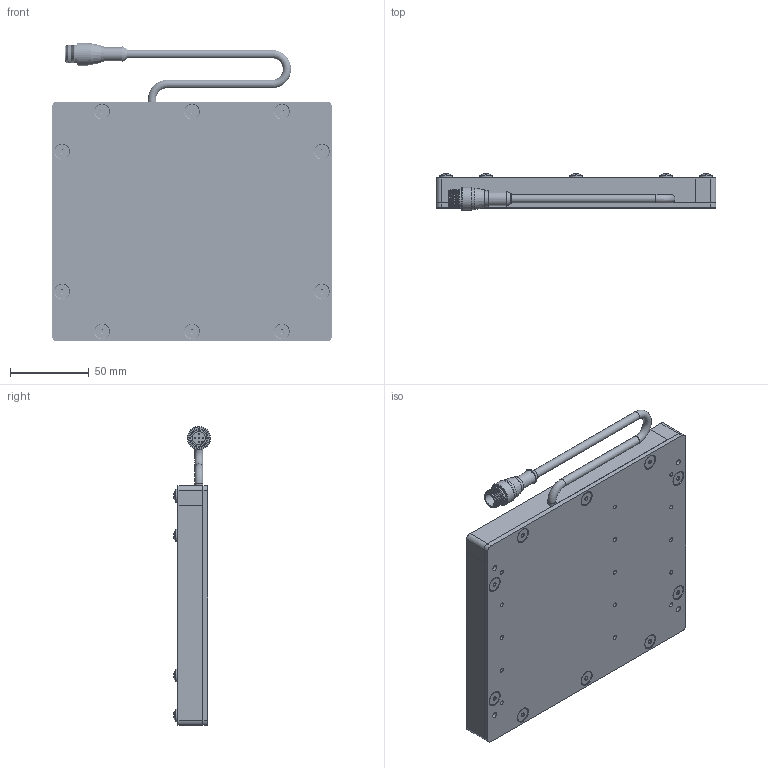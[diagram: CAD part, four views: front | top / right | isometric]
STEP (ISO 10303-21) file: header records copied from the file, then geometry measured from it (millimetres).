
FILE_DESCRIPTION (( 'STEP AP214' ), '1' );
FILE_NAME ('SBL56-XXX.STEP', '2026-04-17T19:08:56', ( '' ), ( '' ), 'SwSTEP 2.0', 'SolidWorks 2025', '' );
FILE_SCHEMA (( 'AUTOMOTIVE_DESIGN' ));
Length unit declared in the file: inch
Products named in the file (12): 8-32 x 0.375 FHCS (92210A192)_92210A192; Hex Standoff .375 x 8-32; BackPlate BLYYXX_0506; SBL56-XXX; SBL3 to 18in rail_06in rail; SBL3 to 18in rail_05in rail; SC Pigtail Complete 18_5pin; WD-SBLYYXX_5x6 with holes; M12 Connector 4,5 and 8 pin_RS4.5T; MC Pigtail 24; 8-32 x .375 Nylon Screw_.375" 94611A192; SBL3 to 18in rail_06in No CG
Assembly tree (39 placements, depth 3):
  SBL56-XXX
    BackPlate BLYYXX_0506
    SBL3 to 18in rail_06in rail
    SBL3 to 18in rail_06in No CG
    SBL3 to 18in rail_05in rail  x2
    SC Pigtail Complete 18_5pin
      MC Pigtail 24
      M12 Connector 4,5 and 8 pin_RS4.5T
    WD-SBLYYXX_5x6 with holes
    Hex Standoff .375 x 8-32  x10
    8-32 x 0.375 FHCS (92210A192)_92210A192  x10
    8-32 x .375 Nylon Screw_.375" 94611A192  x10
Bounding box: 177.8 x 23.38 x 189.93 mm (x, y, z)
Volume: 268701.3 mm3; surface area: 167269 mm2
Topology: 38 solids, 38 shells, 1197 faces, 2983 edges, 1903 vertices
Faces by surface type: plane 449, bspline 270, cylinder 261, cone 179, torus 23, sphere 15
Full cylindrical faces by diameter (mm): 0.762 x5, 2.705 x15, 3.454 x14, 4.496 x30, 5.207 x3, 6.604 x8, 6.858 x10, 8.128 x10, 8.382 x1, 8.636 x1, 9.119 x10, 10.16 x1, 10.541 x1, 11.938 x1, 13.716 x2, 14.732 x1
Entity records: 17139 total; most frequent: CARTESIAN_POINT 5834, DIRECTION 2055, ORIENTED_EDGE 1760, EDGE_CURVE 880, AXIS2_PLACEMENT_3D 839, EDGE_LOOP 665, VERTEX_POINT 647, FACE_OUTER_BOUND 498
